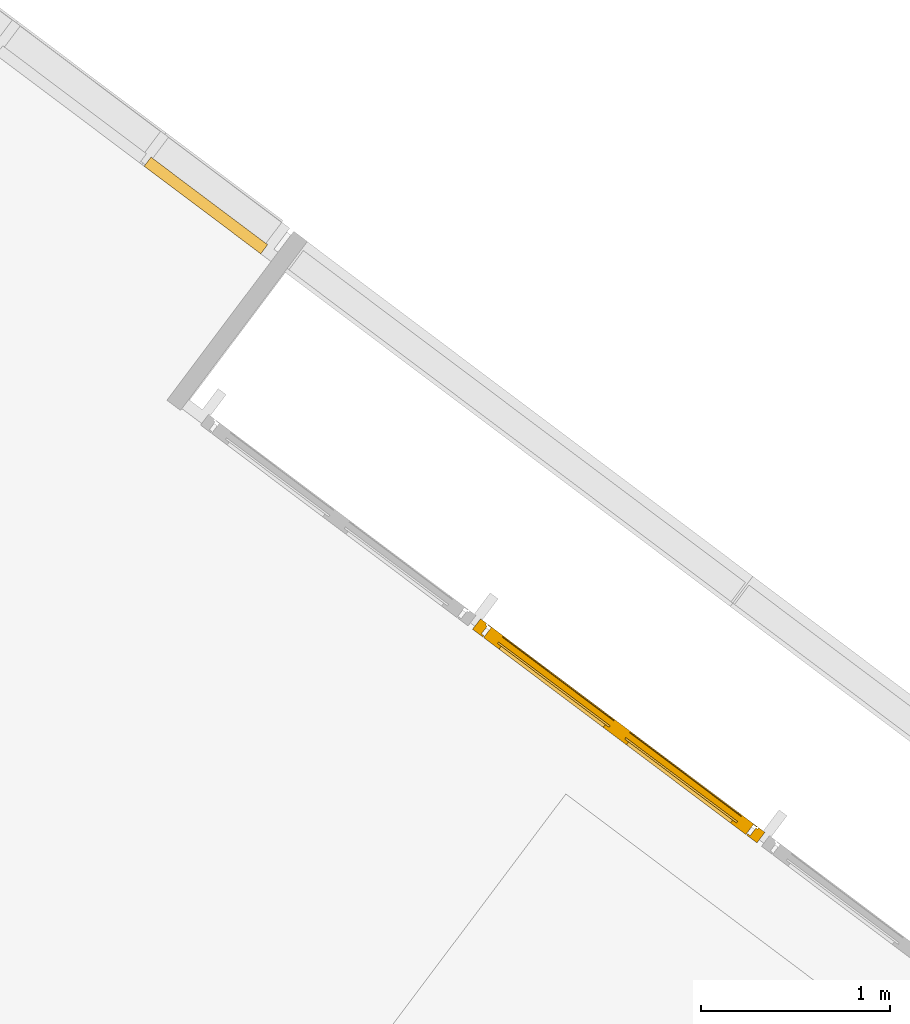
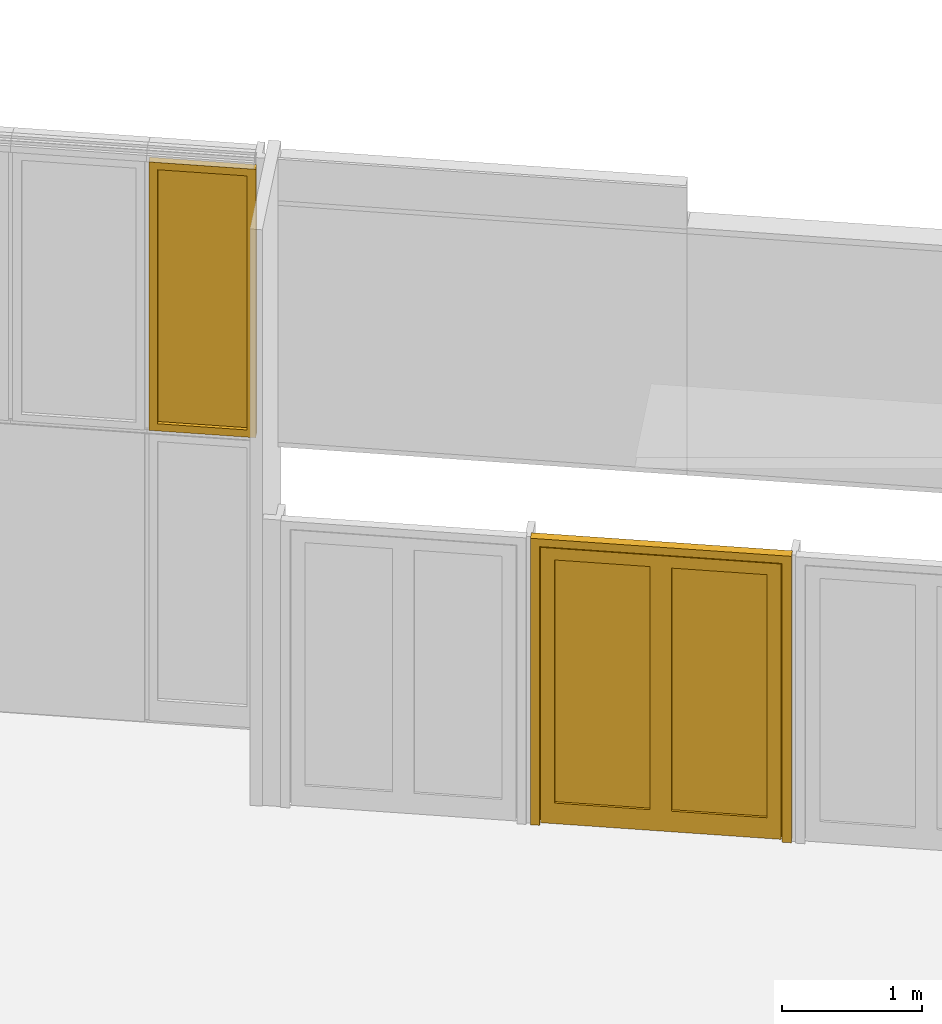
# One storey, part 14 of 15: 1 door, 1 window, 2 elements without a shape of their own.
"""IFC2X3 building model written with IfcOpenShell, lengths in metres."""

from ifc_helpers import new_model, entity, si_unit, converted_unit, derived_unit, direction, frame, origin, place, context, subcontext, project, spatial, faceted_brep, source, transform, mapped, material, material_list, type_object, type_shapes, element, aggregate, save


model = new_model("IFC2X3")

# Units and contexts
model_context = context("Model", 3, precision=1e-05, world=origin(), true_north=direction((6.123031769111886e-17, 1.0)))
body_context = subcontext(model_context, "Body", "Model", "MODEL_VIEW")
ifc_project = project(units=[si_unit("LENGTHUNIT", "METRE"), si_unit("AREAUNIT", "SQUARE_METRE"), si_unit("VOLUMEUNIT", "CUBIC_METRE"), converted_unit("PLANEANGLEUNIT", "DEGREE", entity("IfcRatioMeasure", 0.017453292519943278), si_unit("PLANEANGLEUNIT", "RADIAN"), dimensions=[0, 0, 0, 0, 0, 0, 0]), si_unit("MASSUNIT", "GRAM", prefix="KILO"), derived_unit("MASSDENSITYUNIT", [(si_unit("MASSUNIT", "GRAM", prefix="KILO"), 1), (si_unit("LENGTHUNIT", "METRE"), -3)]), derived_unit("IONCONCENTRATIONUNIT", [(si_unit("MASSUNIT", "GRAM", prefix="KILO"), 1), (si_unit("LENGTHUNIT", "METRE"), -3)]), derived_unit("MOMENTOFINERTIAUNIT", [(si_unit("LENGTHUNIT", "METRE"), 4)]), si_unit("TIMEUNIT", "SECOND"), si_unit("FREQUENCYUNIT", "HERTZ"), si_unit("THERMODYNAMICTEMPERATUREUNIT", "DEGREE_CELSIUS"), derived_unit("THERMALTRANSMITTANCEUNIT", [(si_unit("MASSUNIT", "GRAM", prefix="KILO"), 1), (si_unit("THERMODYNAMICTEMPERATUREUNIT", "KELVIN"), -1), (si_unit("TIMEUNIT", "SECOND"), -3)]), derived_unit("THERMALCONDUCTANCEUNIT", [(si_unit("MASSUNIT", "GRAM", prefix="KILO"), 1), (si_unit("THERMODYNAMICTEMPERATUREUNIT", "KELVIN"), -1), (si_unit("TIMEUNIT", "SECOND"), -3), (si_unit("LENGTHUNIT", "METRE"), 1)]), derived_unit("VOLUMETRICFLOWRATEUNIT", [(si_unit("LENGTHUNIT", "METRE"), 3), (si_unit("TIMEUNIT", "SECOND"), -1)]), derived_unit("MASSFLOWRATEUNIT", [(si_unit("MASSUNIT", "GRAM", prefix="KILO"), 1), (si_unit("TIMEUNIT", "SECOND"), -1)]), derived_unit("ROTATIONALFREQUENCYUNIT", [(si_unit("TIMEUNIT", "SECOND"), -1)]), si_unit("ELECTRICCURRENTUNIT", "AMPERE"), si_unit("ELECTRICVOLTAGEUNIT", "VOLT"), si_unit("POWERUNIT", "WATT"), si_unit("FORCEUNIT", "NEWTON", prefix="KILO"), si_unit("ILLUMINANCEUNIT", "LUX"), si_unit("LUMINOUSFLUXUNIT", "LUMEN"), si_unit("LUMINOUSINTENSITYUNIT", "CANDELA"), derived_unit("USERDEFINED", [(si_unit("MASSUNIT", "GRAM", prefix="KILO"), -1), (si_unit("LENGTHUNIT", "METRE"), -2), (si_unit("TIMEUNIT", "SECOND"), 3), (si_unit("LUMINOUSFLUXUNIT", "LUMEN"), 1)]), derived_unit("USERDEFINED", [(si_unit("MASSUNIT", "GRAM", prefix="KILO"), 1), (si_unit("TIMEUNIT", "SECOND"), -3), (si_unit("LENGTHUNIT", "METRE"), 3), (si_unit("ELECTRICCURRENTUNIT", "AMPERE"), -2)]), derived_unit("SOUNDPOWERUNIT", [(si_unit("MASSUNIT", "GRAM", prefix="KILO"), 1), (si_unit("TIMEUNIT", "SECOND"), -3), (si_unit("LENGTHUNIT", "METRE"), 2)]), derived_unit("SOUNDPRESSUREUNIT", [(si_unit("MASSUNIT", "GRAM", prefix="KILO"), 1), (si_unit("LENGTHUNIT", "METRE"), -1), (si_unit("TIMEUNIT", "SECOND"), -2)]), derived_unit("LINEARVELOCITYUNIT", [(si_unit("LENGTHUNIT", "METRE"), 1), (si_unit("TIMEUNIT", "SECOND"), -1)]), si_unit("PRESSUREUNIT", "PASCAL"), derived_unit("USERDEFINED", [(si_unit("MASSUNIT", "GRAM", prefix="KILO"), 1), (si_unit("LENGTHUNIT", "METRE"), -2), (si_unit("TIMEUNIT", "SECOND"), -2)]), derived_unit("LINEARFORCEUNIT", [(si_unit("MASSUNIT", "GRAM", prefix="KILO"), 1), (si_unit("TIMEUNIT", "SECOND"), -2)]), derived_unit("PLANARFORCEUNIT", [(si_unit("MASSUNIT", "GRAM", prefix="KILO"), 1), (si_unit("LENGTHUNIT", "METRE"), -1), (si_unit("TIMEUNIT", "SECOND"), -2)]), derived_unit("SPECIFICHEATCAPACITYUNIT", [(si_unit("THERMODYNAMICTEMPERATUREUNIT", "KELVIN"), -1), (si_unit("LENGTHUNIT", "METRE"), 2), (si_unit("TIMEUNIT", "SECOND"), -2)]), derived_unit("HEATINGVALUEUNIT", [(si_unit("LENGTHUNIT", "METRE"), 2), (si_unit("TIMEUNIT", "SECOND"), -2)]), derived_unit("VAPORPERMEABILITYUNIT", [(si_unit("LENGTHUNIT", "METRE"), -1), (si_unit("TIMEUNIT", "SECOND"), 1)]), derived_unit("DYNAMICVISCOSITYUNIT", [(si_unit("MASSUNIT", "GRAM", prefix="KILO"), 1), (si_unit("TIMEUNIT", "SECOND"), -1), (si_unit("LENGTHUNIT", "METRE"), -1)]), derived_unit("THERMALEXPANSIONCOEFFICIENTUNIT", [(si_unit("THERMODYNAMICTEMPERATUREUNIT", "KELVIN"), -1)]), derived_unit("MODULUSOFELASTICITYUNIT", [(si_unit("MASSUNIT", "GRAM", prefix="KILO"), 1), (si_unit("LENGTHUNIT", "METRE"), -1), (si_unit("TIMEUNIT", "SECOND"), -2)]), derived_unit("ISOTHERMALMOISTURECAPACITYUNIT", [(si_unit("LENGTHUNIT", "METRE"), 3), (si_unit("MASSUNIT", "GRAM", prefix="KILO"), -1)]), derived_unit("MOISTUREDIFFUSIVITYUNIT", [(si_unit("TIMEUNIT", "SECOND"), -1), (si_unit("LENGTHUNIT", "METRE"), 2)])], contexts=[model_context])

# Site, building, storey
site_placement = place(None, frame((0.0, 0.0, 235.0), z_axis=(0.0, 0.0, 1.0), x_axis=(-0.7996477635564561, 0.6004693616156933, 0.0)))
site = spatial("IfcSite", under=ifc_project, at=site_placement, Name="Default", CompositionType="ELEMENT")
building_placement = place(site_placement, origin())
building = spatial("IfcBuilding", under=site, at=building_placement, CompositionType="ELEMENT")
storey_placement = place(building_placement, frame((0.0, 0.0, -5.4499999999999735)))
storey = spatial("IfcBuildingStorey", under=building, at=storey_placement, Name="PS1- Gimnàs", CompositionType="ELEMENT", Elevation=-5.4499999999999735)

# Curtain wall, window
curtain_wall_type_1 = type_object("IfcCurtainWallType", Name="Muro cortina:MC- EXT- MCv1- frontal", PredefinedType="NOTDEFINED")
curtain_wall_1_placement = place(storey_placement, frame((0.0, 0.0, 5.4499999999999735)))
curtain_wall_1 = element("IfcCurtainWall", 1, at=curtain_wall_1_placement, inside=storey, type_object=curtain_wall_type_1, Name="Muro cortina:MC- EXT- MCv1- frontal", ObjectType="Muro cortina:MC- EXT- MCv1- frontal")
ifc_material_1 = material(Name="_Alumini- T1- Perfil")
ifc_material_2 = material(Name="_Vidre")
ifc_material_list = material_list([ifc_material_1, ifc_material_2])
window_style = type_object("IfcWindowStyle", Name="MC- Alu- Conjunt vidre fix- 62x60 cm:MC- Alu- Conjunt vidre fix- 62x60 cm", ConstructionType="NOTDEFINED", OperationType="NOTDEFINED", ParameterTakesPrecedence=False, Sizeable=False, material=ifc_material_list)
shared_shape_1 = source(origin(), body_context, "Body", "Brep", [
    faceted_brep([(-0.3853749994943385, -0.05999999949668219, 2.342499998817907), (-0.3853749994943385, 0.0, 2.342499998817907), (-0.3853749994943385, 0.0, 0.0), (-0.3853749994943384, -0.05999999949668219, 0.0), (-0.3225681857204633, 0.0, 2.279693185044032), (-0.3225681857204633, 0.0, 0.06280681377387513), (0.3225681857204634, 0.0, 0.06280681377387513), (0.3225681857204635, 0.0, 2.279693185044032), (0.3853749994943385, 0.0, 2.342499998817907), (0.3853749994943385, 0.0, 0.0), (0.3853749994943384, -0.05999999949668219, 0.0), (0.3853749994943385, -0.05999999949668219, 2.342499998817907), (0.3225710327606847, -0.05999999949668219, 2.2796960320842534), (0.3225710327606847, -0.05999999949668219, 0.06280396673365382), (-0.3225710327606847, -0.05999999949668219, 0.06280396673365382), (-0.3225710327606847, -0.05999999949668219, 2.2796960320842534), (-0.3225710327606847, -0.03160022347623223, 2.2796960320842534), (-0.3225710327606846, -0.03160022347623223, 0.06280396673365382), (0.3225710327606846, -0.03160022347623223, 0.0628039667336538), (0.3225710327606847, -0.03160022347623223, 2.2796960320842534), (0.3365682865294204, -0.03160022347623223, 2.293693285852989), (0.3365682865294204, -0.03160022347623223, 0.048806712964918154), (-0.3365682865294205, -0.03160022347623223, 0.04880671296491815), (-0.3365682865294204, -0.03160022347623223, 2.293693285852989), (-0.3365682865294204, -0.007600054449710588, 2.293693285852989), (-0.3365682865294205, -0.007600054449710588, 0.04880671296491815), (0.3365682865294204, -0.007600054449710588, 0.048806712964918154), (0.3365682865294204, -0.007600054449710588, 2.293693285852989), (0.32256818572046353, -0.007600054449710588, 2.279693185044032), (0.3225681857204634, -0.007600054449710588, 0.06280681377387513), (-0.32256818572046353, -0.007600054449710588, 0.06280681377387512), (-0.3225681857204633, -0.007600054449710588, 2.279693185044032)], [[[0, 1, 2, 3]], [[4, 5, 6, 7], [8, 9, 2, 1]], [[3, 2, 9, 10]], [[0, 3, 10, 11], [12, 13, 14, 15]], [[16, 15, 14, 17]], [[17, 14, 13, 18]], [[16, 17, 18, 19], [20, 21, 22, 23]], [[24, 23, 22, 25]], [[25, 22, 21, 26]], [[24, 25, 26, 27], [28, 29, 30, 31]], [[4, 31, 30, 5]], [[5, 30, 29, 6]], [[10, 9, 8, 11]], [[18, 13, 12, 19]], [[26, 21, 20, 27]], [[6, 29, 28, 7]], [[11, 8, 1, 0]], [[19, 12, 15, 16]], [[27, 20, 23, 24]], [[7, 28, 31, 4]]], outer=[[True], [False, True], [True], [True, False], [True], [True], [False, True], [True], [True], [True, False], [True], [True], [True], [True], [True], [True], [True], [True], [True], [True]]),
    faceted_brep([(-0.33656828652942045, -0.007600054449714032, 0.048806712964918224), (0.33656828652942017, -0.007600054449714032, 0.048806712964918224), (0.33656828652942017, -0.03160022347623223, 0.048806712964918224), (-0.33656828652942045, -0.03160022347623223, 0.048806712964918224), (-0.33656828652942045, -0.007600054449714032, 2.2934999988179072), (0.33656828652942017, -0.007600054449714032, 2.2934999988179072), (0.33656828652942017, -0.03160022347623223, 2.2934999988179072), (-0.33656828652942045, -0.03160022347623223, 2.2934999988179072)], [[[0, 1, 2, 3]], [[4, 5, 1, 0]], [[5, 6, 2, 1]], [[6, 7, 3, 2]], [[7, 4, 0, 3]], [[4, 7, 6, 5]]]),
])
type_shapes(window_style, [shared_shape_1])
window_placement = place(curtain_wall_1_placement, frame((10.134772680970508, -39.3651917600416, -2.8849999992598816), z_axis=(0.0, 0.0, 1.0), x_axis=(-1.0, 0.0, 0.0)))
window = element("IfcWindow", 2, at=window_placement, type_object=window_style, material=ifc_material_list, Name="MC- Alu- Conjunt vidre fix- 62x60 cm:MC- Alu- Conjunt vidre fix- 62x60 cm", ObjectType="MC- Alu- Conjunt vidre fix- 62x60 cm:MC- Alu- Conjunt vidre fix- 62x60 cm", OverallHeight=2.342499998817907, OverallWidth=0.7707499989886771, context=body_context, shape_type="MappedRepresentation", body=[
    mapped(shared_shape_1, transform((0.0, 0.0, 0.0), scale=1.0)),
])
aggregate(curtain_wall_1, [window])

# Curtain wall, door
curtain_wall_type_2 = type_object("IfcCurtainWallType", Name="Muro cortina:MC- EXT- MCv1- Portes", PredefinedType="NOTDEFINED")
curtain_wall_2_placement = place(storey_placement, frame((0.0, 0.0, 5.4499999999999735)))
curtain_wall_2 = element("IfcCurtainWall", 3, at=curtain_wall_2_placement, inside=storey, type_object=curtain_wall_type_2, Name="Muro cortina:MC- EXT- MCv1- Portes", ObjectType="Muro cortina:MC- EXT- MCv1- Portes")
door_style = type_object("IfcDoorStyle", Name="MC- Alu- Conjunt doble porta- 70x60 cm- +15cm- obertura ext:MC- Alu- Conjunt doble porta- 70x60 cm- +15cm- obertura ext", ConstructionType="NOTDEFINED", OperationType="DOUBLE_DOOR_SINGLE_SWING", ParameterTakesPrecedence=False, Sizeable=False, material=ifc_material_list)
shared_shape_2 = source(origin(), body_context, "Body", "Brep", [
    faceted_brep([(-0.8666467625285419, -0.06999999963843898, 0.02400000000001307), (-0.8666467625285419, -0.004300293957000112, 0.02400000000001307), (0.0, -0.004300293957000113, 0.02400000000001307), (0.0, -0.06999999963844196, 0.02400000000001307), (-0.8666467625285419, -0.00430029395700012, 2.426699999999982), (-0.8666467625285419, -0.06999999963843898, 2.426699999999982), (0.0, -0.00430029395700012, 2.4266999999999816), (0.0, -0.004300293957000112, 2.4506999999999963), (-0.8906467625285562, -0.00430029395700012, 2.4506999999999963), (-0.8906467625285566, -0.00430029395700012, 0.0), (0.0, -0.004300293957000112, 0.0), (0.0, -0.06999999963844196, 2.4266999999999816), (0.0, -2.9457204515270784e-07, 0.0), (0.0, -2.9457204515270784e-07, 2.4506999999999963), (-0.7650467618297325, -0.06999999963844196, 2.3250999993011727), (-0.07659999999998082, -0.06999999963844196, 2.3250999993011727), (-0.07659999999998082, -0.06999999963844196, 0.2036000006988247), (-0.7650467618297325, -0.06999999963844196, 0.20360000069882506), (-0.07659999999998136, -0.005500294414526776, 2.3250999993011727), (-0.07659999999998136, -2.9457204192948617e-07, 2.3250999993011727), (-0.07659999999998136, -2.9457204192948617e-07, 0.20360000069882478), (-0.07659999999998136, -0.005500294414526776, 0.20360000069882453), (-0.8906467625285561, -2.9457204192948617e-07, 2.4506999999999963), (-0.8906467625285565, -2.9457204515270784e-07, 0.0), (-0.7650467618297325, -2.9457204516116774e-07, 2.3250999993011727), (-0.7650467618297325, -2.9457204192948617e-07, 0.20360000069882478), (-0.7650467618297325, -0.005500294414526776, 0.2036000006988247), (-0.7650467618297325, -0.005500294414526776, 2.3250999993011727), (-0.051599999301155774, -0.005500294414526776, 2.3500999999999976), (-0.7900467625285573, -0.005500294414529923, 2.3500999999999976), (-0.7900467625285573, -0.005500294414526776, 0.17859999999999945), (-0.051599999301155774, -0.005500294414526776, 0.17859999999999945), (-0.7900467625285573, -0.051000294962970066, 2.3500999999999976), (-0.7900467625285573, -0.05100029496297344, 0.17859999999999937), (-0.051599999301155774, -0.051000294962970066, 0.17859999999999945), (-0.051599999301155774, -0.051000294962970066, 2.3500999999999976), (-0.07659999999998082, -0.051000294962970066, 2.3250999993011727), (-0.7650467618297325, -0.05100029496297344, 2.3250999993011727), (-0.7650467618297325, -0.051000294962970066, 0.20360000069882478), (-0.07659999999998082, -0.051000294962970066, 0.20360000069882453)], [[[0, 1, 2, 3]], [[4, 1, 0, 5]], [[6, 7, 8, 9, 10, 2, 1, 4]], [[7, 6, 11, 3, 2, 10, 12, 13]], [[14, 15, 16, 17], [11, 5, 0, 3]], [[18, 19, 20, 21]], [[22, 13, 12, 23], [19, 24, 25, 20]], [[26, 21, 20, 25]], [[27, 18, 21, 26], [28, 29, 30, 31]], [[24, 27, 26, 25]], [[29, 32, 33, 30]], [[34, 31, 30, 33]], [[35, 28, 31, 34]], [[32, 35, 34, 33], [36, 37, 38, 39]], [[37, 14, 17, 38]], [[17, 16, 39, 38]], [[15, 36, 39, 16]], [[9, 23, 12, 10]], [[8, 22, 23, 9]], [[4, 5, 11, 6]], [[7, 13, 22, 8]], [[27, 24, 19, 18]], [[32, 29, 28, 35]], [[14, 37, 36, 15]]], outer=[[True], [True], [True], [True], [False, True], [True], [True, False], [True], [False, True], [True], [True], [True], [True], [True, False], [True], [True], [True], [True], [True], [True], [True], [True], [True], [True]]),
    faceted_brep([(0.8666467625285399, -0.0043002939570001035, 0.024000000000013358), (0.8666467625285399, -0.069999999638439, 0.024000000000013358), (0.0, -0.06999999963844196, 0.024000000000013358), (0.0, -0.004300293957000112, 0.024000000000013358), (0.890646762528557, -0.0043002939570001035, 0.0), (0.890646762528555, -0.004300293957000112, 2.4506999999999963), (0.0, -0.004300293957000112, 2.4506999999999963), (0.0, -0.004300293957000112, 2.426699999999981), (0.8666467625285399, -0.004300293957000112, 2.426699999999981), (0.0, -0.0043002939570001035, 0.0), (0.8666467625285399, -0.069999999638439, 2.426699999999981), (0.0, -0.069999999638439, 2.426699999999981), (0.0765999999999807, -0.06999999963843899, 2.325099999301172), (0.7650467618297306, -0.069999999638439, 2.3250999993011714), (0.7650467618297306, -0.069999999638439, 0.20360000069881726), (0.0765999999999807, -0.06999999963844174, 0.20360000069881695), (0.0, -2.9457204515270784e-07, 2.4506999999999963), (0.0, -2.9457204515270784e-07, 0.0), (0.7650467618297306, -2.9457204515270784e-07, 2.3250999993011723), (0.07659999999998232, -2.9457204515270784e-07, 2.3250999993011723), (0.07659999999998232, -2.9457204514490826e-07, 0.20360000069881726), (0.7650467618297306, -2.9457204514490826e-07, 0.20360000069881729), (0.890646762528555, -2.9457204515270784e-07, 2.4506999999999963), (0.890646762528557, -2.9457204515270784e-07, 0.0), (0.7650467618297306, -0.005500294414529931, 2.3250999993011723), (0.7650467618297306, -0.005500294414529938, 0.20360000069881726), (0.07659999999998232, -0.005500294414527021, 0.20360000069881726), (0.790046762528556, -0.005500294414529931, 2.3500999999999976), (0.05159999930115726, -0.005500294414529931, 2.3500999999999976), (0.05159999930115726, -0.005500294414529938, 0.17859999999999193), (0.790046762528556, -0.005500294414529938, 0.17859999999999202), (0.07659999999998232, -0.005500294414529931, 2.325099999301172), (0.790046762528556, -0.05100029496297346, 2.3500999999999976), (0.790046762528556, -0.05100029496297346, 0.17859999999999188), (0.7650467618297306, -0.05100029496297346, 2.3250999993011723), (0.0765999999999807, -0.05100029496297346, 2.3250999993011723), (0.0765999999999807, -0.05100029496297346, 0.20360000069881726), (0.7650467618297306, -0.05100029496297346, 0.20360000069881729), (0.05159999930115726, -0.051000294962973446, 2.350099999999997), (0.05159999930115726, -0.051000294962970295, 0.17859999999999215)], [[[0, 1, 2, 3]], [[4, 5, 6, 7, 8, 0, 3, 9]], [[1, 0, 8, 10]], [[10, 11, 2, 1], [12, 13, 14, 15]], [[6, 16, 17, 9, 3, 2, 11, 7]], [[18, 19, 20, 21], [17, 16, 22, 23]], [[22, 5, 4, 23]], [[24, 18, 21, 25]], [[21, 20, 26, 25]], [[27, 28, 29, 30], [31, 24, 25, 26]], [[32, 27, 30, 33]], [[34, 35, 36, 37], [38, 32, 33, 39]], [[33, 30, 29, 39]], [[13, 34, 37, 14]], [[37, 36, 15, 14]], [[19, 31, 26, 20]], [[28, 38, 39, 29]], [[35, 12, 15, 36]], [[5, 22, 16, 6]], [[18, 24, 31, 19]], [[27, 32, 38, 28]], [[34, 13, 12, 35]], [[10, 8, 7, 11]], [[9, 17, 23, 4]]], outer=[[True], [True], [True], [True, False], [True], [False, True], [True], [True], [True], [True, False], [True], [False, True], [True], [True], [True], [True], [True], [True], [True], [True], [True], [True], [True], [True]]),
    faceted_brep([(0.05159999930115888, -0.009100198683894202, 0.17859999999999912), (0.790046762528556, -0.009100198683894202, 0.17859999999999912), (0.790046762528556, -0.04110019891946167, 0.17859999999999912), (0.05159999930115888, -0.04110019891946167, 0.17859999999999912), (0.05159999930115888, -0.009100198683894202, 2.375100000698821), (0.790046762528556, -0.009100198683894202, 2.375100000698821), (0.790046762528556, -0.04110019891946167, 2.375100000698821), (0.05159999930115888, -0.04110019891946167, 2.375100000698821)], [[[0, 1, 2, 3]], [[4, 5, 1, 0]], [[5, 6, 2, 1]], [[6, 7, 3, 2]], [[7, 4, 0, 3]], [[4, 7, 6, 5]]]),
    faceted_brep([(-0.051599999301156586, -0.009100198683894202, 0.17859999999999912), (-0.051599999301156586, -0.04110019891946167, 0.17859999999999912), (-0.790046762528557, -0.04110019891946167, 0.17859999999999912), (-0.7900467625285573, -0.009100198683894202, 0.17859999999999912), (-0.051599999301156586, -0.009100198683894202, 2.375100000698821), (-0.051599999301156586, -0.04110019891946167, 2.375100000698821), (-0.7900467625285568, -0.04110019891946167, 2.375100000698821), (-0.7900467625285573, -0.009100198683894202, 2.375100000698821)], [[[0, 1, 2, 3]], [[4, 5, 1, 0]], [[5, 6, 2, 1]], [[6, 7, 3, 2]], [[7, 4, 0, 3]], [[4, 7, 6, 5]]]),
    faceted_brep([(0.939946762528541, 0.0, 0.0), (0.939946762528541, -0.06999999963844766, 0.0), (0.8726467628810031, -0.06999999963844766, 0.0), (0.8726467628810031, -0.061199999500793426, 0.0), (0.8881467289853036, -0.061199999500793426, 0.0), (0.8881467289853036, -0.010300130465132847, 0.0), (0.8986467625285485, -0.010300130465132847, 0.0), (0.8986467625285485, 0.0, 0.0), (0.9399467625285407, 0.0, 2.499999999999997), (0.9399467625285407, -0.06999999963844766, 2.499999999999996), (-0.939946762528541, -0.06999999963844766, 2.499999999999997), (-0.939946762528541, -0.06999999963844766, 0.0), (-0.8726467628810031, -0.06999999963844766, 0.0), (-0.8726467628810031, -0.06999999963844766, 2.4327000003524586), (0.8726467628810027, -0.06999999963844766, 2.432700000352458), (0.8726467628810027, -0.061199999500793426, 2.432700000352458), (-0.8726467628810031, -0.061199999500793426, 2.4327000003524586), (-0.8726467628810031, -0.061199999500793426, 0.0), (-0.8881467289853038, -0.061199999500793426, 0.0), (-0.8881467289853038, -0.061199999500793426, 2.4481999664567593), (0.8881467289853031, -0.061199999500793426, 2.4481999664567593), (0.8881467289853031, -0.010300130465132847, 2.4481999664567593), (-0.8881467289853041, -0.010300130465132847, 2.4481999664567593), (-0.8881467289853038, -0.010300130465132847, 0.0), (-0.8986467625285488, -0.010300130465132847, 0.0), (-0.8986467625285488, -0.010300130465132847, 2.4587000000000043), (0.8986467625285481, -0.010300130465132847, 2.4587000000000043), (0.8986467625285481, 0.0, 2.4587000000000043), (-0.898646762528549, 0.0, 2.4587000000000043), (-0.8986467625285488, 0.0, 0.0), (-0.939946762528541, 0.0, 0.0), (-0.9399467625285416, 0.0, 2.4999999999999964)], [[[0, 1, 2, 3, 4, 5, 6, 7]], [[1, 0, 8, 9]], [[2, 1, 9, 10, 11, 12, 13, 14]], [[3, 2, 14, 15]], [[4, 3, 15, 16, 17, 18, 19, 20]], [[5, 4, 20, 21]], [[6, 5, 21, 22, 23, 24, 25, 26]], [[7, 6, 26, 27]], [[0, 7, 27, 28, 29, 30, 31, 8]], [[30, 29, 24, 23, 18, 17, 12, 11]], [[28, 25, 24, 29]], [[22, 19, 18, 23]], [[16, 13, 12, 17]], [[10, 31, 30, 11]], [[9, 8, 31, 10]], [[15, 14, 13, 16]], [[21, 20, 19, 22]], [[27, 26, 25, 28]]]),
])
type_shapes(door_style, [shared_shape_2])
door_placement = place(curtain_wall_2_placement, frame((6.722094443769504, -38.46019175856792, -5.449999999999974), z_axis=(0.0, 0.0, 1.0), x_axis=(-1.0, 0.0, 0.0)))
door = element("IfcDoor", 4, at=door_placement, type_object=door_style, material=ifc_material_list, Name="MC- Alu- Conjunt doble porta- 70x60 cm- +15cm- obertura ext:MC- Alu- Conjunt doble porta- 70x60 cm- +15cm- obertura ext", ObjectType="MC- Alu- Conjunt doble porta- 70x60 cm- +15cm- obertura ext:MC- Alu- Conjunt doble porta- 70x60 cm- +15cm- obertura ext", OverallHeight=2.499999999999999, OverallWidth=1.8798935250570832, context=body_context, shape_type="MappedRepresentation", body=[
    mapped(shared_shape_2, transform((0.0, 0.0, 0.0), scale=1.0)),
])
aggregate(curtain_wall_2, [door])

save(model, "model.ifc")
